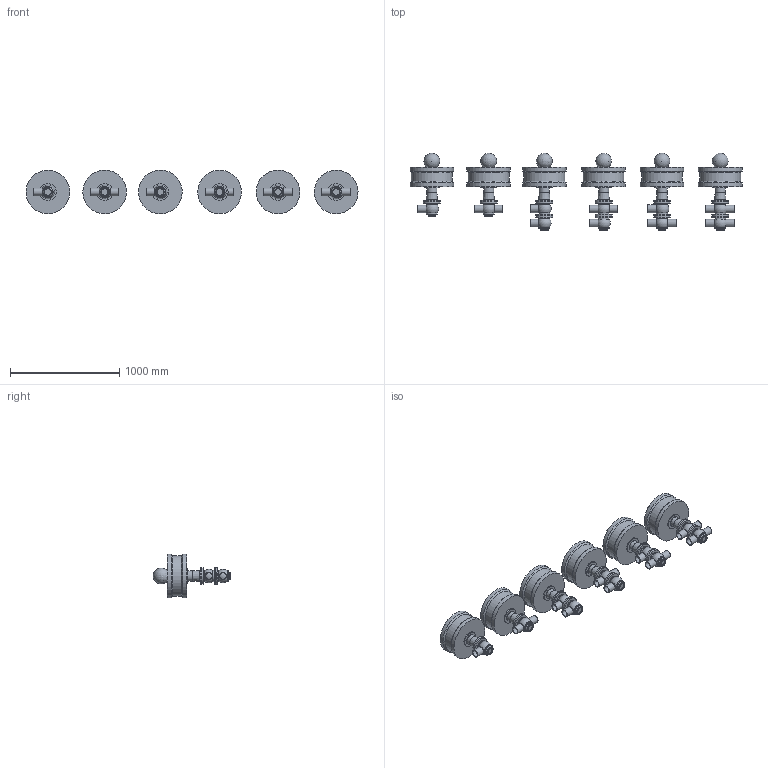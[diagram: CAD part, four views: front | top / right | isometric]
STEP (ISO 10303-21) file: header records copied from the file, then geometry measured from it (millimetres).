
FILE_DESCRIPTION(/* description */ (''),/* implementation_level */ '2;1');
FILE_NAME(/* name */ 'C:\Users\marz-m\Desktop\PDF\BBZQ 3D STEP\BBZQ-DN65-CIL.360.stp',/* time_stamp */ '2018-04-13T15:20:17+02:00',/* author */ ('marz-m'),/* organization */ (''),/* preprocessor_version */ 'ST-DEVELOPER v17',/* originating_system */ 'Autodesk Inventor 2018',/* authorisation */ '');
FILE_SCHEMA (('AUTOMOTIVE_DESIGN { 1 0 10303 214 3 1 1 }'));
Length unit declared in the file: millimetre
Products named in the file (8): BBZQ-DN65-CIL.360; assemblaggio dn65 per cil 207-360; CILINDRO 360; SAGOMA-GIOTTO-; COR-INF-L-BBZQ-DN065-SALD; COR-SUP-L-BBZQ-DN065-SALD; COR-SUP-T-BBZQ-DN65; COR-INF-T-BBZQ-DN065-SALD
Assembly tree (28 placements, depth 2):
  BBZQ-DN65-CIL.360
    assemblaggio dn65 per cil 207-360  x6
    COR-INF-L-BBZQ-DN065-SALD  x3
    COR-INF-T-BBZQ-DN065-SALD  x3
    COR-SUP-L-BBZQ-DN065-SALD  x2
    COR-SUP-T-BBZQ-DN65  x2
    CILINDRO 360  x6
    SAGOMA-GIOTTO-  x6
Bounding box: 3040.96 x 708.97 x 400 mm (x, y, z)
Volume: 157482832.2 mm3; surface area: 5298482 mm2
Topology: 28 solids, 28 shells, 326 faces, 766 edges, 570 vertices
Faces by surface type: cylinder 124, plane 115, torus 32, sphere 31, cone 24
Full cylindrical faces by diameter (mm): 25.4 x6, 60 x21, 69.8 x6, 70 x21, 92 x6, 99 x12, 101 x8, 141 x6, 154 x20, 374 x6, 400 x12
Entity records: 3412 total; most frequent: DIRECTION 669, CARTESIAN_POINT 523, ORIENTED_EDGE 446, AXIS2_PLACEMENT_3D 313, EDGE_CURVE 223, CIRCLE 180, VERTEX_POINT 167, EDGE_LOOP 124
